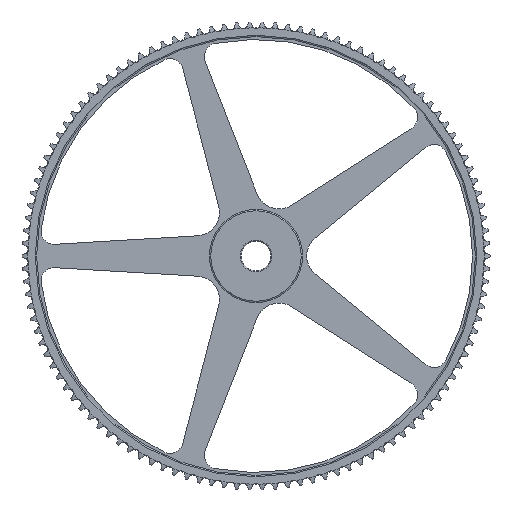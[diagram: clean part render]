
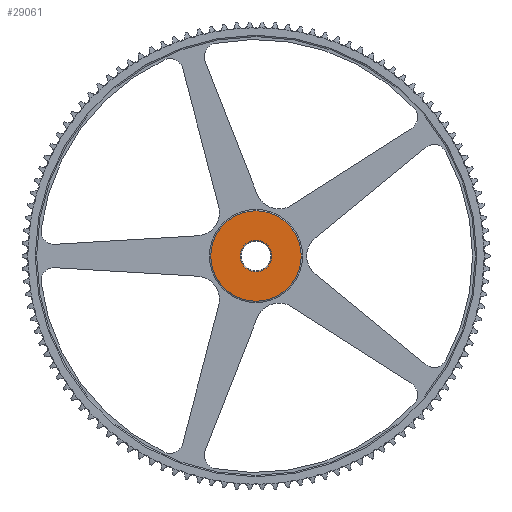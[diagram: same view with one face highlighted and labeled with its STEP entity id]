
A CAD part, left-side view. The second image highlights one B-rep face of the part: STEP entity #29061.
In plain terms, the highlighted planar face has unit normal (-1, 0, 0).
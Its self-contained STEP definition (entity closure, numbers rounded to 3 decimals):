
#46=FACE_BOUND('',#8119,.T.);
#6646=FACE_OUTER_BOUND('',#8118,.T.);
#8118=EDGE_LOOP('',(#26710));
#8119=EDGE_LOOP('',(#26711));
#10052=CIRCLE('',#32422,23.5);
#10053=CIRCLE('',#32424,67.5);
#13157=VERTEX_POINT('',#58390);
#13158=VERTEX_POINT('',#58393);
#17918=EDGE_CURVE('',#13157,#13157,#10052,.T.);
#17919=EDGE_CURVE('',#13158,#13158,#10053,.T.);
#26710=ORIENTED_EDGE('',*,*,#17919,.F.);
#26711=ORIENTED_EDGE('',*,*,#17918,.T.);
#27615=PLANE('',#32423);
#29061=ADVANCED_FACE('',(#6646,#46),#27615,.T.);
#32422=AXIS2_PLACEMENT_3D('',#58391,#40136,#40137);
#32423=AXIS2_PLACEMENT_3D('',#58392,#40138,#40139);
#32424=AXIS2_PLACEMENT_3D('',#58394,#40140,#40141);
#40136=DIRECTION('center_axis',(1.,0.,0.));
#40137=DIRECTION('ref_axis',(0.,0.,-1.));
#40138=DIRECTION('center_axis',(-1.,0.,0.));
#40139=DIRECTION('ref_axis',(0.,0.,1.));
#40140=DIRECTION('center_axis',(1.,0.,0.));
#40141=DIRECTION('ref_axis',(0.,0.,-1.));
#58390=CARTESIAN_POINT('',(-1.441,375.428,0.));
#58391=CARTESIAN_POINT('Origin',(-1.441,351.928,0.));
#58392=CARTESIAN_POINT('Origin',(-1.441,419.428,0.));
#58393=CARTESIAN_POINT('',(-1.441,419.428,0.));
#58394=CARTESIAN_POINT('Origin',(-1.441,351.928,0.));
